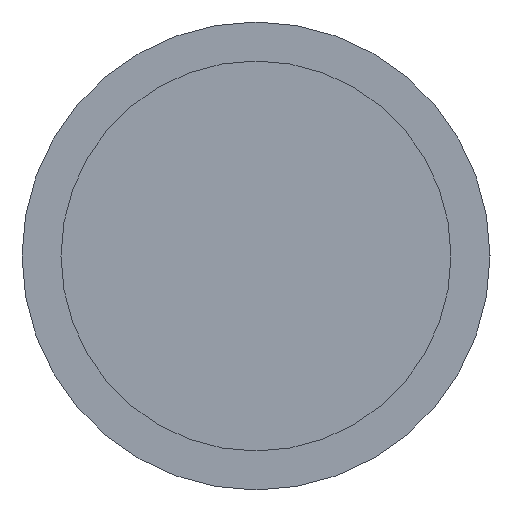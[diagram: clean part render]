
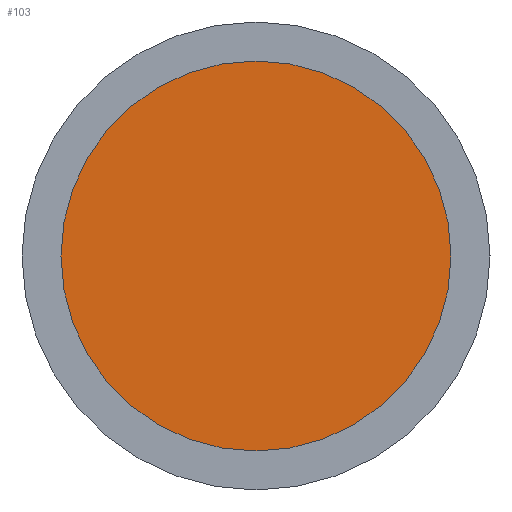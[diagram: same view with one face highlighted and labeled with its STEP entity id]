
A CAD part, left-side view. The second image highlights one B-rep face of the part: STEP entity #103.
In plain terms, the highlighted planar face has unit normal (-1, 0, 0).
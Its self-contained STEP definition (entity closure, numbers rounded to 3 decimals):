
#103 = ADVANCED_FACE( '', ( #162 ), #163, .T. );
#162 = FACE_OUTER_BOUND( '', #221, .T. );
#163 = PLANE( '', #222 );
#221 = EDGE_LOOP( '', ( #447, #448 ) );
#222 = AXIS2_PLACEMENT_3D( '', #449, #450, #451 );
#447 = ORIENTED_EDGE( '', *, *, #469, .T. );
#448 = ORIENTED_EDGE( '', *, *, #522, .T. );
#449 = CARTESIAN_POINT( '', ( -20., 1.25, 0. ) );
#450 = DIRECTION( '', ( -1., 0., 0. ) );
#451 = DIRECTION( '', ( 0., 1., 0. ) );
#469 = EDGE_CURVE( '', #548, #552, #554, .T. );
#522 = EDGE_CURVE( '', #552, #548, #638, .T. );
#548 = VERTEX_POINT( '', #664 );
#552 = VERTEX_POINT( '', #669 );
#554 = CIRCLE( '', #672, 2.5 );
#638 = CIRCLE( '', #762, 2.5 );
#664 = CARTESIAN_POINT( '', ( -20., 2.5, 0. ) );
#669 = CARTESIAN_POINT( '', ( -20., -2.5, 0. ) );
#672 = AXIS2_PLACEMENT_3D( '', #810, #811, #812 );
#762 = AXIS2_PLACEMENT_3D( '', #957, #958, #959 );
#810 = CARTESIAN_POINT( '', ( -20., 0., 0. ) );
#811 = DIRECTION( '', ( -1., 0., 0. ) );
#812 = DIRECTION( '', ( 0., 1., 0. ) );
#957 = CARTESIAN_POINT( '', ( -20., 0., 0. ) );
#958 = DIRECTION( '', ( -1., 0., 0. ) );
#959 = DIRECTION( '', ( 0., 1., 0. ) );
